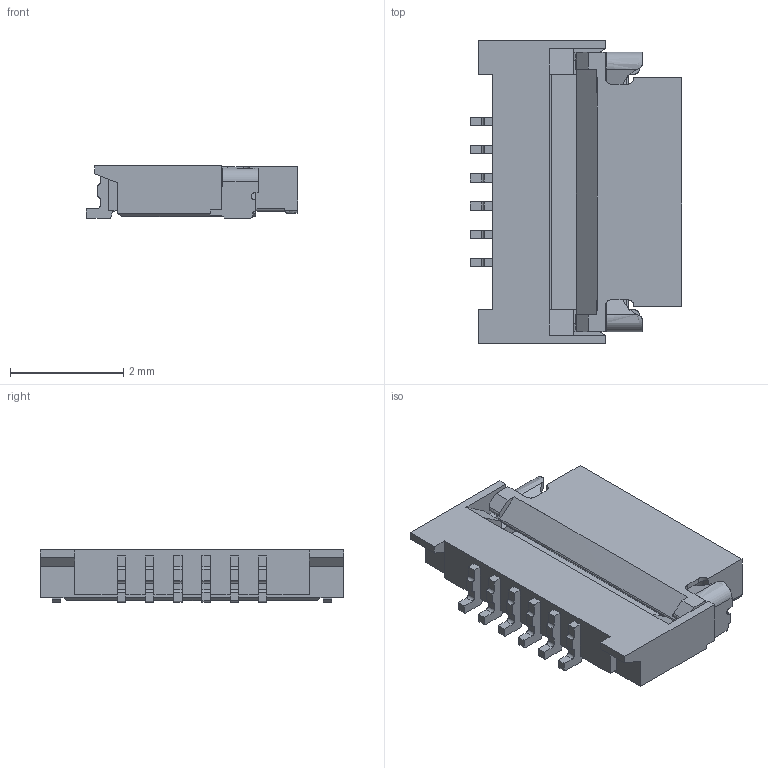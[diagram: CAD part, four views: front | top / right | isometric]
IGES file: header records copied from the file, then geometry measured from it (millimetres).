
Start section: SolidWorks IGES file using analytic representation for surfaces
Bounding box: 3.75 x 5.37 x 0.93 mm (x, y, z)
Surface area: 74.7 mm2 (no closed solid volume)
Topology: 0 solids, 0 shells, 323 faces, 2198 edges, 2182 vertices
Faces by surface type: bspline 228, revolution 95
